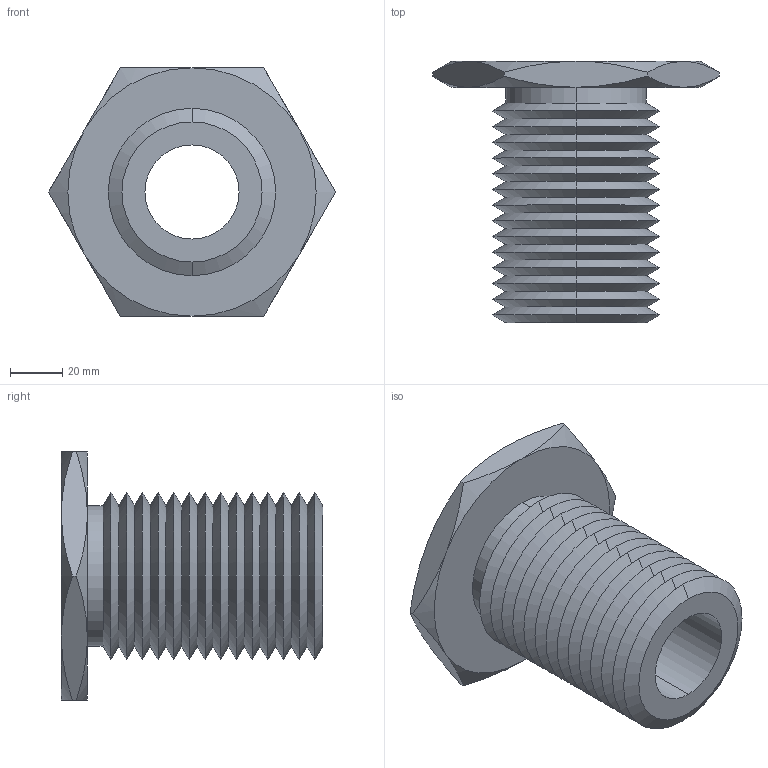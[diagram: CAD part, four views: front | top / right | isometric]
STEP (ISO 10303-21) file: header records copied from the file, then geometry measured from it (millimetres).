
FILE_DESCRIPTION (( 'STEP AP203' ), '1' );
FILE_NAME ('63302.W0064_M36x4.step', '2013-12-08T11:25:55', ( 'User' ), ( '' ), 'SwSTEP 2.0', 'SolidWorks 2009', '' );
FILE_SCHEMA (( 'CONFIG_CONTROL_DESIGN' ));
Length unit declared in the file: millimetre
Products named in the file (1): 63302.W0064_M36x4
Bounding box: 109.7 x 100 x 95 mm (x, y, z)
Volume: 215803.4 mm3; surface area: 59266.2 mm2
Topology: 1 solids, 1 shells, 83 faces, 170 edges, 90 vertices
Faces by surface type: cone 70, plane 9, cylinder 4
Entity records: 2371 total; most frequent: CARTESIAN_POINT 560, DIRECTION 392, ORIENTED_EDGE 340, EDGE_CURVE 170, AXIS2_PLACEMENT_3D 162, VERTEX_POINT 90, EDGE_LOOP 86, ADVANCED_FACE 83
